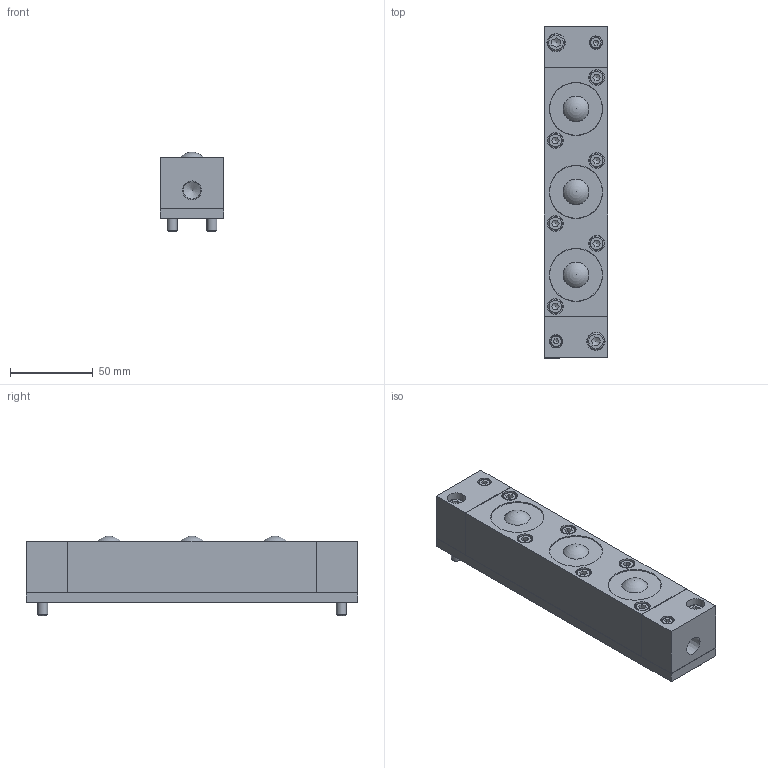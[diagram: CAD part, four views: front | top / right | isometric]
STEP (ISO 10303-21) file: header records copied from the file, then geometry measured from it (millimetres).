
FILE_DESCRIPTION(/* description */ (''),/* implementation_level */ '2;1');
FILE_NAME(/* name */ 'Z:\34-Tei\01-web 3Dデータ\40-ISR-38\X2\578B\X0\\ISR-38-200-A.stp',/* time_stamp */ '2015-01-15T17:54:17+09:00',/* author */ ('yamaki'),/* organization */ (''),/* preprocessor_version */ 'ST-DEVELOPER v15.6',/* originating_system */ 'Autodesk Inventor 2015',/* authorisation */ '');
FILE_SCHEMA (('AUTOMOTIVE_DESIGN { 1 0 10303 214 3 1 1 }'));
Length unit declared in the file: millimetre
Products named in the file (6): 4100AT-01-200; 4100AT-00; 4100AT-03; RSW10601; HCB10635; 4100AA
Bounding box: 38 x 200 x 48 mm (x, y, z)
Volume: 265597.1 mm3; surface area: 80175.6 mm2
Topology: 9 solids, 9 shells, 237 faces, 497 edges, 314 vertices
Faces by surface type: plane 158, cylinder 44, cone 20, torus 12, sphere 3
Full cylindrical faces by diameter (mm): 6 x2, 6.5 x2, 7 x2, 8 x2, 8.5 x6, 9.5 x6, 10 x2, 10.5 x1, 11 x2, 25.7 x3, 31.5 x3, 32 x3, 35 x6
Entity records: 5000 total; most frequent: CARTESIAN_POINT 913, DIRECTION 796, ORIENTED_EDGE 694, EDGE_CURVE 347, AXIS2_PLACEMENT_3D 294, EDGE_LOOP 284, VERTEX_POINT 249, LINE 208
